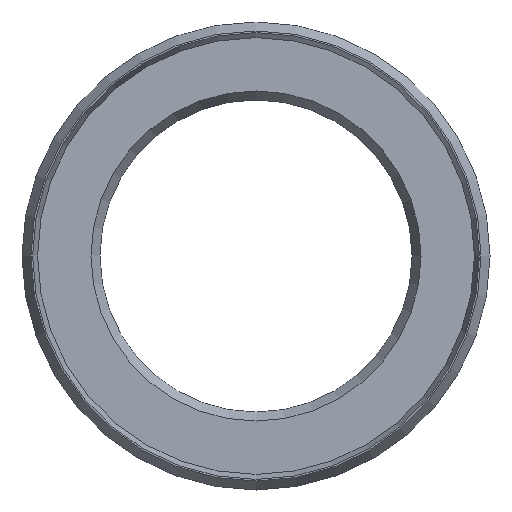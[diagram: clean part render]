
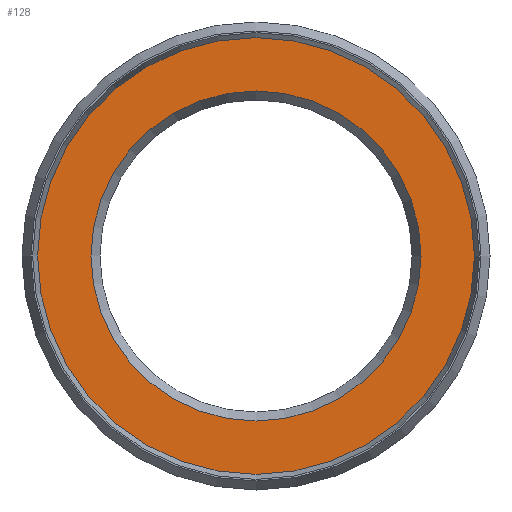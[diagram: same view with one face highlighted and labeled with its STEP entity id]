
A CAD part, left-side view. The second image highlights one B-rep face of the part: STEP entity #128.
In plain terms, the highlighted planar face has unit normal (-1, 0, 0).
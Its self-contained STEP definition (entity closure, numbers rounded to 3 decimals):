
#112=PLANE('',#329);
#128=ADVANCED_FACE('',(#163,#164),#112,.T.);
#163=FACE_BOUND('',#199,.T.);
#164=FACE_BOUND('',#200,.T.);
#199=EDGE_LOOP('',(#235));
#200=EDGE_LOOP('',(#236));
#235=ORIENTED_EDGE('',*,*,#276,.T.);
#236=ORIENTED_EDGE('',*,*,#275,.F.);
#257=VERTEX_POINT('',#454);
#258=VERTEX_POINT('',#457);
#275=EDGE_CURVE('',#257,#257,#293,.T.);
#276=EDGE_CURVE('',#258,#258,#294,.T.);
#293=CIRCLE('',#326,14.);
#294=CIRCLE('',#328,10.577);
#326=AXIS2_PLACEMENT_3D('',#453,#394,#395);
#328=AXIS2_PLACEMENT_3D('',#456,#398,#399);
#329=AXIS2_PLACEMENT_3D('',#458,#400,#401);
#394=DIRECTION('',(1.,0.,0.));
#395=DIRECTION('',(0.,0.,-1.));
#398=DIRECTION('',(1.,0.,0.));
#399=DIRECTION('',(0.,0.,1.));
#400=DIRECTION('',(-1.,0.,0.));
#401=DIRECTION('',(0.,0.,1.));
#453=CARTESIAN_POINT('',(0.,0.,0.));
#454=CARTESIAN_POINT('',(0.,0.,-14.));
#456=CARTESIAN_POINT('',(0.,0.,0.));
#457=CARTESIAN_POINT('',(0.,0.,10.577));
#458=CARTESIAN_POINT('',(0.,14.,0.));
